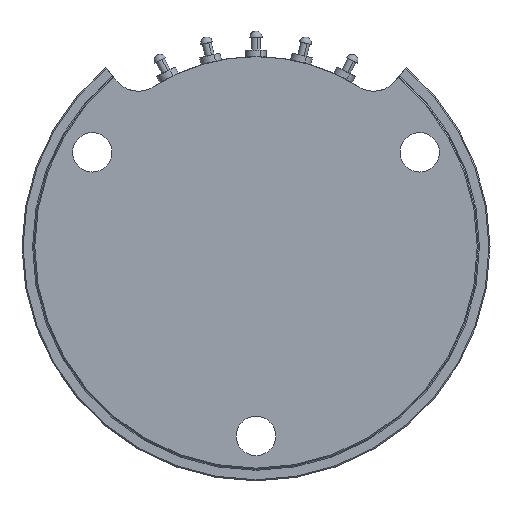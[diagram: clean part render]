
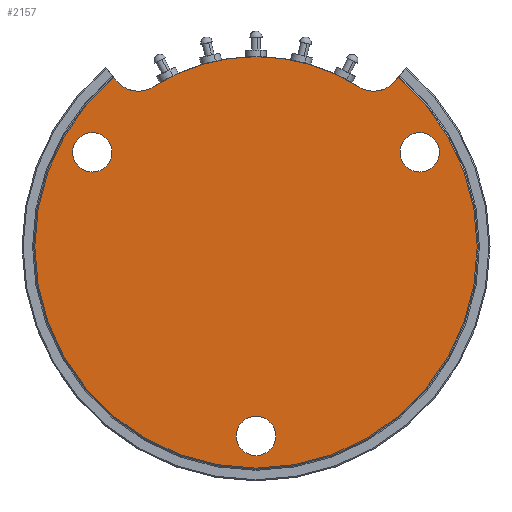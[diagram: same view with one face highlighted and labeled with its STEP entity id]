
A CAD part, front view. The second image highlights one B-rep face of the part: STEP entity #2157.
In plain terms, the highlighted planar face has unit normal (0, -1, 0).
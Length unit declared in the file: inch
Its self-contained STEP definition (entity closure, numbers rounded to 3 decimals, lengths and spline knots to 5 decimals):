
#52 = LINE ( 'NONE', #385, #3945 ) ;
#74 = EDGE_CURVE ( 'NONE', #1643, #5250, #3140, .T. ) ;
#93 = VERTEX_POINT ( 'NONE', #4849 ) ;
#191 = ORIENTED_EDGE ( 'NONE', *, *, #791, .T. ) ;
#192 = DIRECTION ( 'NONE',  ( 0., 1., 0. ) ) ;
#307 = ORIENTED_EDGE ( 'NONE', *, *, #851, .T. ) ;
#385 = CARTESIAN_POINT ( 'NONE',  ( -1.71459, -0.56588, 0.74459 ) ) ;
#452 = VERTEX_POINT ( 'NONE', #1413 ) ;
#503 = EDGE_CURVE ( 'NONE', #452, #4327, #2756, .T. ) ;
#513 = EDGE_LOOP ( 'NONE', ( #3216, #2636 ) ) ;
#519 = VERTEX_POINT ( 'NONE', #3150 ) ;
#531 = EDGE_LOOP ( 'NONE', ( #2374, #191, #1164, #2823, #3154, #3121, #2686 ) ) ;
#623 = CIRCLE ( 'NONE', #2390, 0.9945 ) ;
#734 = CARTESIAN_POINT ( 'NONE',  ( -1.72905, -0.56588, 0.76183 ) ) ;
#771 = VERTEX_POINT ( 'NONE', #2970 ) ;
#791 = EDGE_CURVE ( 'NONE', #4732, #3525, #623, .T. ) ;
#851 = EDGE_CURVE ( 'NONE', #93, #519, #1660, .T. ) ;
#880 = FACE_BOUND ( 'NONE', #3257, .T. ) ;
#928 = CARTESIAN_POINT ( 'NONE',  ( -1.82592, -0.56588, 0.425 ) ) ;
#969 = AXIS2_PLACEMENT_3D ( 'NONE', #3895, #986, #4307 ) ;
#986 = DIRECTION ( 'NONE',  ( 0., 1., 0. ) ) ;
#1000 = DIRECTION ( 'NONE',  ( 0., 0., 1. ) ) ;
#1036 = EDGE_LOOP ( 'NONE', ( #2654, #1705 ) ) ;
#1106 = VERTEX_POINT ( 'NONE', #4421 ) ;
#1113 = DIRECTION ( 'NONE',  ( 0., 1., 0. ) ) ;
#1164 = ORIENTED_EDGE ( 'NONE', *, *, #5028, .T. ) ;
#1194 = CARTESIAN_POINT ( 'NONE',  ( -0.56077, -0.56588, 0.82494 ) ) ;
#1196 = DIRECTION ( 'NONE',  ( 0., 1., 0. ) ) ;
#1206 = EDGE_CURVE ( 'NONE', #1106, #4732, #52, .T. ) ;
#1278 = CARTESIAN_POINT ( 'NONE',  ( -1.0898, -0.56588, -0.9385 ) ) ;
#1413 = CARTESIAN_POINT ( 'NONE',  ( -1.0898, -0.56588, -0.7615 ) ) ;
#1643 = VERTEX_POINT ( 'NONE', #4474 ) ;
#1660 = CIRCLE ( 'NONE', #3600, 0.0885 ) ;
#1705 = ORIENTED_EDGE ( 'NONE', *, *, #4983, .T. ) ;
#1809 = CARTESIAN_POINT ( 'NONE',  ( -1.0898, -0.56588, -0.85 ) ) ;
#1834 = CIRCLE ( 'NONE', #3292, 0.0885 ) ;
#1899 = EDGE_CURVE ( 'NONE', #519, #93, #1834, .T. ) ;
#1923 = CARTESIAN_POINT ( 'NONE',  ( -1.0898, -0.56588, -0.85 ) ) ;
#2034 = DIRECTION ( 'NONE',  ( 0., 0., 1. ) ) ;
#2058 = DIRECTION ( 'NONE',  ( 0., -1., 0. ) ) ;
#2157 = ADVANCED_FACE ( 'NONE', ( #3326, #880, #4968, #3746 ), #2656, .F. ) ;
#2197 = DIRECTION ( 'NONE',  ( 0., 0., 1. ) ) ;
#2261 = DIRECTION ( 'NONE',  ( 0., -1., 0. ) ) ;
#2318 = DIRECTION ( 'NONE',  ( 0., 0., 1. ) ) ;
#2321 = EDGE_CURVE ( 'NONE', #771, #3679, #3322, .T. ) ;
#2364 = CARTESIAN_POINT ( 'NONE',  ( -0.62825, -0.56588, 0.71972 ) ) ;
#2374 = ORIENTED_EDGE ( 'NONE', *, *, #1206, .T. ) ;
#2390 = AXIS2_PLACEMENT_3D ( 'NONE', #4591, #4540, #3377 ) ;
#2422 = EDGE_CURVE ( 'NONE', #3247, #1106, #4574, .T. ) ;
#2447 = DIRECTION ( 'NONE',  ( 0., 0., 1. ) ) ;
#2460 = AXIS2_PLACEMENT_3D ( 'NONE', #4215, #2261, #1000 ) ;
#2585 = CARTESIAN_POINT ( 'NONE',  ( -0.35368, -0.56588, 0.425 ) ) ;
#2636 = ORIENTED_EDGE ( 'NONE', *, *, #2321, .T. ) ;
#2647 = DIRECTION ( 'NONE',  ( 0., 0., 1. ) ) ;
#2654 = ORIENTED_EDGE ( 'NONE', *, *, #503, .T. ) ;
#2656 = PLANE ( 'NONE',  #969 ) ;
#2686 = ORIENTED_EDGE ( 'NONE', *, *, #2422, .T. ) ;
#2717 = ORIENTED_EDGE ( 'NONE', *, *, #1899, .T. ) ;
#2746 = CARTESIAN_POINT ( 'NONE',  ( -0.31913, -0.56588, 0.91844 ) ) ;
#2756 = CIRCLE ( 'NONE', #2841, 0.0885 ) ;
#2823 = ORIENTED_EDGE ( 'NONE', *, *, #74, .T. ) ;
#2835 = AXIS2_PLACEMENT_3D ( 'NONE', #5078, #192, #2647 ) ;
#2841 = AXIS2_PLACEMENT_3D ( 'NONE', #1923, #1113, #2318 ) ;
#2970 = CARTESIAN_POINT ( 'NONE',  ( -1.82592, -0.56588, 0.3365 ) ) ;
#2977 = CARTESIAN_POINT ( 'NONE',  ( -0.45055, -0.56588, 0.76183 ) ) ;
#3021 = AXIS2_PLACEMENT_3D ( 'NONE', #1194, #4863, #3618 ) ;
#3052 = DIRECTION ( 'NONE',  ( 0., 1., 0. ) ) ;
#3055 = AXIS2_PLACEMENT_3D ( 'NONE', #3100, #3067, #3864 ) ;
#3067 = DIRECTION ( 'NONE',  ( 0., 1., 0. ) ) ;
#3073 = DIRECTION ( 'NONE',  ( 0., 1., 0. ) ) ;
#3099 = CIRCLE ( 'NONE', #2460, 0.855 ) ;
#3100 = CARTESIAN_POINT ( 'NONE',  ( -1.61883, -0.56588, 0.82494 ) ) ;
#3121 = ORIENTED_EDGE ( 'NONE', *, *, #4991, .T. ) ;
#3134 = CARTESIAN_POINT ( 'NONE',  ( -1.82592, -0.56588, 0.5135 ) ) ;
#3140 = CIRCLE ( 'NONE', #3021, 0.125 ) ;
#3150 = CARTESIAN_POINT ( 'NONE',  ( -0.35368, -0.56588, 0.5135 ) ) ;
#3154 = ORIENTED_EDGE ( 'NONE', *, *, #4271, .T. ) ;
#3216 = ORIENTED_EDGE ( 'NONE', *, *, #4408, .T. ) ;
#3246 = CARTESIAN_POINT ( 'NONE',  ( -0.35368, -0.56588, 0.425 ) ) ;
#3247 = VERTEX_POINT ( 'NONE', #3934 ) ;
#3257 = EDGE_LOOP ( 'NONE', ( #2717, #307 ) ) ;
#3289 = DIRECTION ( 'NONE',  ( -0.643, 0., 0.766 ) ) ;
#3292 = AXIS2_PLACEMENT_3D ( 'NONE', #3246, #1196, #2447 ) ;
#3296 = AXIS2_PLACEMENT_3D ( 'NONE', #1809, #3052, #4641 ) ;
#3322 = CIRCLE ( 'NONE', #2835, 0.0885 ) ;
#3326 = FACE_BOUND ( 'NONE', #513, .T. ) ;
#3347 = AXIS2_PLACEMENT_3D ( 'NONE', #4908, #2058, #2034 ) ;
#3377 = DIRECTION ( 'NONE',  ( 0., 0., 1. ) ) ;
#3525 = VERTEX_POINT ( 'NONE', #2977 ) ;
#3536 = LINE ( 'NONE', #2746, #4037 ) ;
#3600 = AXIS2_PLACEMENT_3D ( 'NONE', #2585, #3073, #2197 ) ;
#3618 = DIRECTION ( 'NONE',  ( 0., 0., 1. ) ) ;
#3679 = VERTEX_POINT ( 'NONE', #3134 ) ;
#3746 = FACE_OUTER_BOUND ( 'NONE', #531, .T. ) ;
#3864 = DIRECTION ( 'NONE',  ( 0., 0., 1. ) ) ;
#3895 = CARTESIAN_POINT ( 'NONE',  ( -2.0893, -0.56588, 0. ) ) ;
#3934 = CARTESIAN_POINT ( 'NONE',  ( -1.55135, -0.56588, 0.71972 ) ) ;
#3945 = VECTOR ( 'NONE', #3289, 39.37008 ) ;
#4037 = VECTOR ( 'NONE', #4745, 39.37008 ) ;
#4215 = CARTESIAN_POINT ( 'NONE',  ( -1.0898, -0.56588, 0. ) ) ;
#4271 = EDGE_CURVE ( 'NONE', #5250, #4998, #5298, .T. ) ;
#4307 = DIRECTION ( 'NONE',  ( 0., 0., 1. ) ) ;
#4327 = VERTEX_POINT ( 'NONE', #1278 ) ;
#4408 = EDGE_CURVE ( 'NONE', #3679, #771, #4532, .T. ) ;
#4421 = CARTESIAN_POINT ( 'NONE',  ( -1.71459, -0.56588, 0.74459 ) ) ;
#4474 = CARTESIAN_POINT ( 'NONE',  ( -0.46501, -0.56588, 0.74459 ) ) ;
#4532 = CIRCLE ( 'NONE', #5057, 0.0885 ) ;
#4540 = DIRECTION ( 'NONE',  ( 0., -1., 0. ) ) ;
#4552 = CIRCLE ( 'NONE', #3296, 0.0885 ) ;
#4574 = CIRCLE ( 'NONE', #3055, 0.125 ) ;
#4591 = CARTESIAN_POINT ( 'NONE',  ( -1.0898, -0.56588, 0. ) ) ;
#4641 = DIRECTION ( 'NONE',  ( 0., 0., 1. ) ) ;
#4732 = VERTEX_POINT ( 'NONE', #734 ) ;
#4745 = DIRECTION ( 'NONE',  ( -0.643, 0., -0.766 ) ) ;
#4849 = CARTESIAN_POINT ( 'NONE',  ( -0.35368, -0.56588, 0.3365 ) ) ;
#4863 = DIRECTION ( 'NONE',  ( 0., 1., 0. ) ) ;
#4908 = CARTESIAN_POINT ( 'NONE',  ( -1.0898, -0.56588, 0. ) ) ;
#4968 = FACE_BOUND ( 'NONE', #1036, .T. ) ;
#4983 = EDGE_CURVE ( 'NONE', #4327, #452, #4552, .T. ) ;
#4991 = EDGE_CURVE ( 'NONE', #4998, #3247, #3099, .T. ) ;
#4995 = DIRECTION ( 'NONE',  ( 0., 1., 0. ) ) ;
#4998 = VERTEX_POINT ( 'NONE', #5099 ) ;
#5012 = DIRECTION ( 'NONE',  ( 0., 0., 1. ) ) ;
#5028 = EDGE_CURVE ( 'NONE', #3525, #1643, #3536, .T. ) ;
#5057 = AXIS2_PLACEMENT_3D ( 'NONE', #928, #4995, #5012 ) ;
#5078 = CARTESIAN_POINT ( 'NONE',  ( -1.82592, -0.56588, 0.425 ) ) ;
#5099 = CARTESIAN_POINT ( 'NONE',  ( -1.0898, -0.56588, 0.855 ) ) ;
#5250 = VERTEX_POINT ( 'NONE', #2364 ) ;
#5298 = CIRCLE ( 'NONE', #3347, 0.855 ) ;
